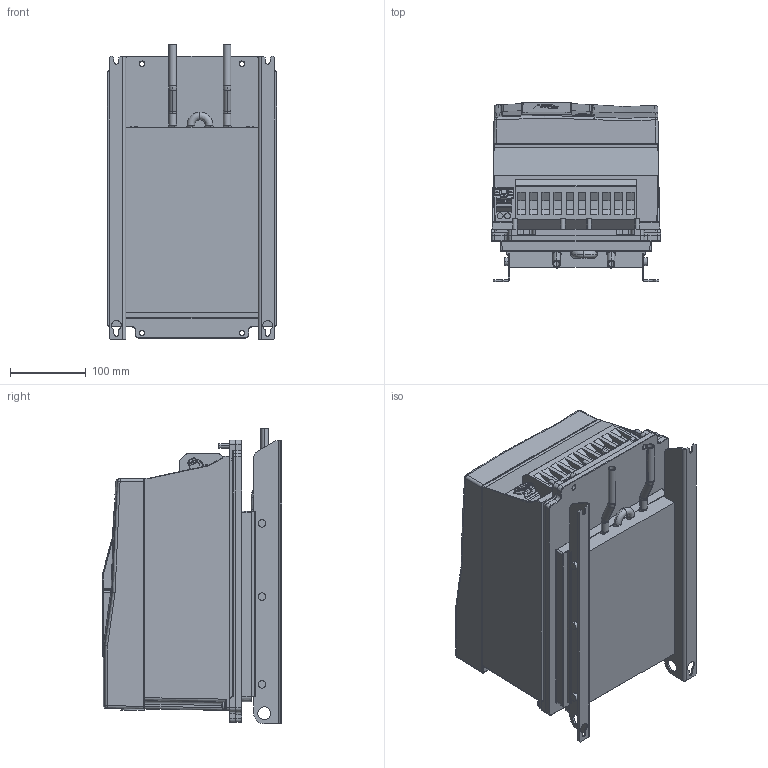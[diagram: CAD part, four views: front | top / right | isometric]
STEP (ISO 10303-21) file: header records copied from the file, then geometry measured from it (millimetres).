
FILE_DESCRIPTION (( 'STEP AP214' ), '1' );
FILE_NAME ('F6-4TW0-A010.STEP', '2020-12-09T12:38:52', ( '' ), ( '' ), 'SwSTEP 2.0', 'SolidWorks 2019', '' );
FILE_SCHEMA (( 'AUTOMOTIVE_DESIGN' ));
Length unit declared in the file: millimetre
Products named in the file (12): 10001537_000; 10032600_000_Kundenmodell; 10044643_000_Kundenmodell; 10058448_000; 10059761_000; F6-4TW0-A010; 10061645_000; 10061644_000_Deckel (Kundenmodell); 10059765_000; 10061792_000; 10045828_000_Basis Leistungsteil TW0 (Kundenmodell); 10059764_000_Blindabdeckung (Kundenmodell)
Assembly tree (13 placements, depth 4):
  F6-4TW0-A010
    10045828_000_Basis Leistungsteil TW0 (Kundenmodell)
      10061792_000
    10032600_000_Kundenmodell
      10061644_000_Deckel (Kundenmodell)
        10061645_000
      10001537_000  x3
      10058448_000
    10044643_000_Kundenmodell
      10059764_000_Blindabdeckung (Kundenmodell)
        10059765_000
      10059761_000
Bounding box: 224 x 237.2 x 391.2 mm (x, y, z)
Volume: 14097774.1 mm3; surface area: 881739.4 mm2
Topology: 17 solids, 33 shells, 2741 faces, 7183 edges, 4551 vertices
Faces by surface type: plane 1191, cylinder 667, bspline 545, torus 183, cone 109, sphere 46
Entity records: 104368 total; most frequent: CARTESIAN_POINT 41755, ORIENTED_EDGE 13880, DIRECTION 11522, EDGE_CURVE 6940, VERTEX_POINT 4433, AXIS2_PLACEMENT_3D 3862, VECTOR 3798, LINE 3798
